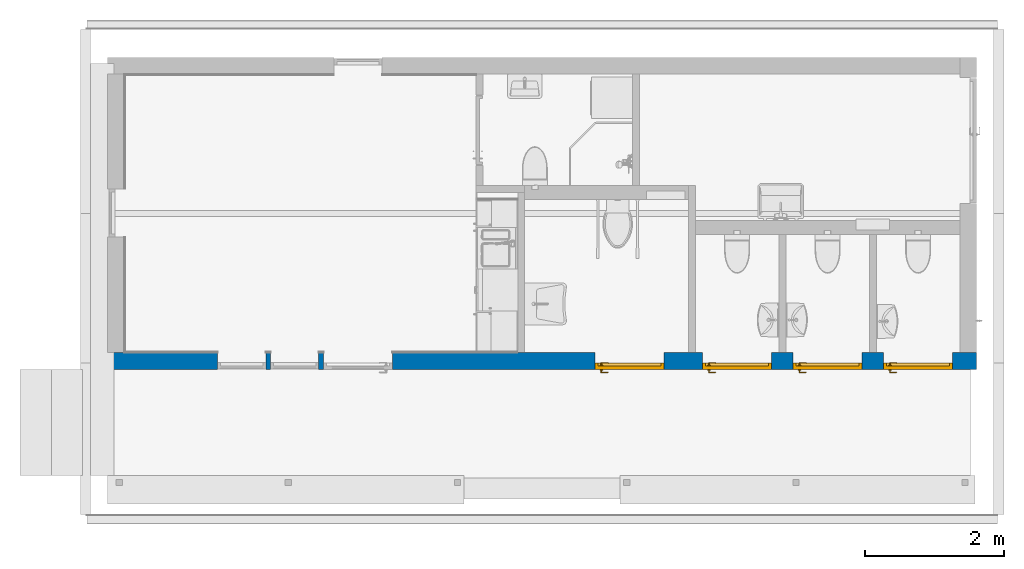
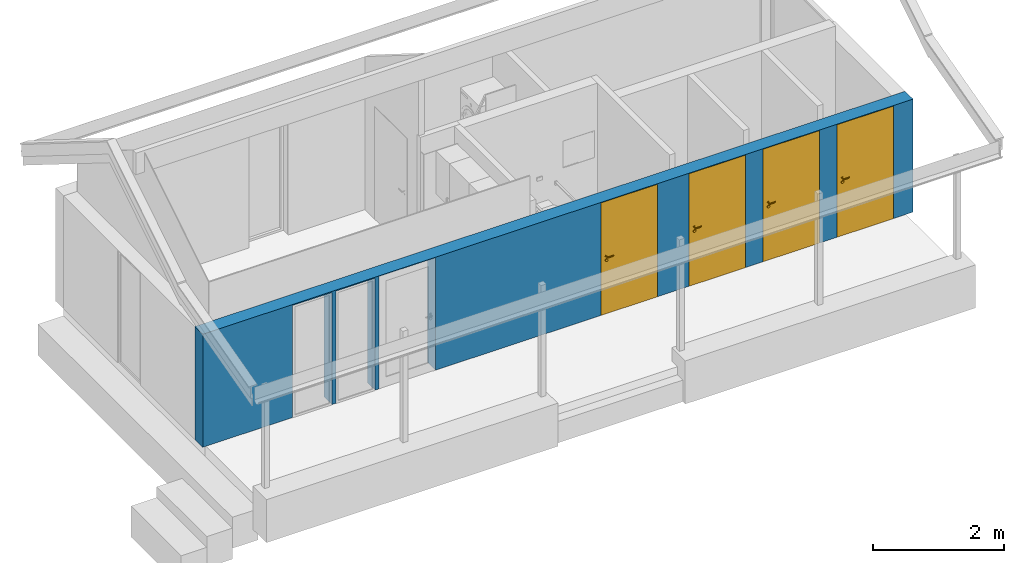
# One storey, part 2 of 15: 4 doors, 1 wall, 7 openings.
"""IFC2X3 building model written with IfcOpenShell, lengths in millimetres."""

from ifc_helpers import new_model, entity, si_unit, converted_unit, direction, frame, frame_2d, origin, place, context, subcontext, project, spatial, rectangle, extrude, faceted_brep, source, transform, mapped, material, material_list, layer, layer_set, layer_usage, type_object, type_shapes, element, fill, save


model = new_model("IFC2X3")

# Units and contexts
model_context = context("Model", 3, precision=0.01, world=origin(), true_north=direction((0.0, 1.0)))
body_context = subcontext(model_context, "Body", "Model", "MODEL_VIEW")
ifc_project = project(units=[si_unit("LENGTHUNIT", "METRE", prefix="MILLI"), si_unit("AREAUNIT", "SQUARE_METRE"), si_unit("VOLUMEUNIT", "CUBIC_METRE"), converted_unit("PLANEANGLEUNIT", "DEGREE", entity("IfcPlaneAngleMeasure", 0.017453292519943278), si_unit("PLANEANGLEUNIT", "RADIAN"), dimensions=[0, 0, 0, 0, 0, 0, 0])], contexts=[model_context])

# Site, building, storey
site_placement = place(None, origin())
site = spatial("IfcSite", under=ifc_project, at=site_placement, Name="Default", CompositionType="ELEMENT")
building_placement = place(site_placement, origin())
building = spatial("IfcBuilding", under=site, at=building_placement, CompositionType="ELEMENT")
storey_placement = place(building_placement, origin())
storey = spatial("IfcBuildingStorey", under=building, at=storey_placement, Name="Et. 1", CompositionType="ELEMENT", Elevation=0.0)

# Wall, openings, doors
ifc_material_1 = material(Name="Vegg - Dobbelfals Stående Kledning - Mørkegrå")
ifc_layer_1 = layer(ifc_material_1, 19.0)
ifc_material_2 = material(Name="Default Floor")
ifc_layer_2 = layer(ifc_material_2, 36.0)
ifc_layer_3 = layer(ifc_material_2, 23.0)
ifc_layer_4 = layer(ifc_material_2, 12.0)
ifc_material_3 = material(Name="Vegg - Stender - Isolert")
ifc_layer_5 = layer(ifc_material_3, 150.0)
ifc_layer_set = layer_set([ifc_layer_1, ifc_layer_2, ifc_layer_3, ifc_layer_4, ifc_layer_5], Name="Basic Wall:Yttervegg stående kl")
ifc_layer_usage = layer_usage(ifc_layer_set, "AXIS2", "POSITIVE", -120.00000000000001)
wall_type = type_object("IfcWallType", Name="Basic Wall:Yttervegg stående kl", PredefinedType="STANDARD", material=ifc_layer_set)
wall_placement = place(storey_placement, frame((11310.567419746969, 11733.19026124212, 0.0)))
wall = element("IfcWallStandardCase", 1, at=wall_placement, inside=storey, type_object=wall_type, material=ifc_layer_usage, Name="Basic Wall:Yttervegg stående kl", context=body_context, shape_type="SweptSolid", body=[
    extrude(rectangle(XDim=12480.000000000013, YDim=240.00000000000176, at=frame_2d((6240.000000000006, 2.8421709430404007e-13), x_axis=(-1.0, 0.0))), origin(), (0.0, 0.0, 1.0), 2100.0),
])
opening_1_placement = place(wall_placement, frame((4090.0, 120.0, 0.0)))
element("IfcOpeningElement", 2, at=opening_1_placement, cuts=wall, Name="YD Glass:10x21M:1", ObjectType="Opening", context=body_context, shape_type="SweptSolid", body=[
    extrude(rectangle(XDim=990.0000000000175, YDim=2090.0000000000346, at=frame_2d((1045.0000000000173, 495.00000000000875), x_axis=(0.0, 1.0))), frame((0.0, 0.0, 0.0), z_axis=(0.0, -1.0, 0.0), x_axis=(0.0, 0.0, 1.0)), (0.0, 0.0, 1.0), 240.00000000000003),
])
opening_2_placement = place(wall_placement, frame((7990.0, 120.0, 0.0)))
opening_2 = element("IfcOpeningElement", 3, at=opening_2_placement, cuts=wall, Name="YD Hel:10x21M:1", ObjectType="Opening", context=body_context, shape_type="SweptSolid", body=[
    extrude(rectangle(XDim=990.0000000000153, YDim=2090.0000000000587, at=frame_2d((1045.0000000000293, 495.0000000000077), x_axis=(0.0, -1.0))), frame((0.0, 0.0, 0.0), z_axis=(0.0, -1.0, 0.0), x_axis=(0.0, 0.0, 1.0)), (0.0, 0.0, 1.0), 240.00000000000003),
])
opening_3_placement = place(wall_placement, frame((12135.0, 120.0, 0.0)))
opening_3 = element("IfcOpeningElement", 4, at=opening_3_placement, cuts=wall, Name="YD Hel:10x21M:1", ObjectType="Opening", context=body_context, shape_type="SweptSolid", body=[
    extrude(rectangle(XDim=990.0000000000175, YDim=2090.0000000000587, at=frame_2d((1045.0000000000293, 495.00000000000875), x_axis=(0.0, -1.0))), frame((0.0, 0.0, 0.0), z_axis=(0.0, -1.0, 0.0), x_axis=(0.0, 0.0, 1.0)), (0.0, 0.0, 1.0), 240.00000000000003),
])
opening_4_placement = place(wall_placement, frame((10835.0, 120.0, 0.0)))
opening_4 = element("IfcOpeningElement", 5, at=opening_4_placement, cuts=wall, Name="YD Hel:10x21M:1", ObjectType="Opening", context=body_context, shape_type="SweptSolid", body=[
    extrude(rectangle(XDim=990.0000000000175, YDim=2090.0000000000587, at=frame_2d((1045.0000000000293, 495.00000000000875), x_axis=(0.0, -1.0))), frame((0.0, 0.0, 0.0), z_axis=(0.0, -1.0, 0.0), x_axis=(0.0, 0.0, 1.0)), (0.0, 0.0, 1.0), 240.00000000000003),
])
opening_5_placement = place(wall_placement, frame((9535.0, 120.0, 0.0)))
opening_5 = element("IfcOpeningElement", 6, at=opening_5_placement, cuts=wall, Name="YD Hel:10x21M:1", ObjectType="Opening", context=body_context, shape_type="SweptSolid", body=[
    extrude(rectangle(XDim=990.0000000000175, YDim=2090.0000000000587, at=frame_2d((1045.0000000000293, 495.00000000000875), x_axis=(0.0, -1.0))), frame((0.0, 0.0, 0.0), z_axis=(0.0, -1.0, 0.0), x_axis=(0.0, 0.0, 1.0)), (0.0, 0.0, 1.0), 240.00000000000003),
])
opening_6_placement = place(wall_placement, frame((3030.0, 120.0, -10.0)))
element("IfcOpeningElement", 7, at=opening_6_placement, cuts=wall, Name="Hel Rute fast:7x21M:1", ObjectType="Opening", context=body_context, shape_type="SweptSolid", body=[
    extrude(rectangle(XDim=690.0000000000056, YDim=2090.000000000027, at=frame_2d((1045.0000000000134, 345.0000000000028), x_axis=(0.0, -1.0))), frame((0.0, 0.0, 0.0), z_axis=(0.0, -1.0, 0.0), x_axis=(0.0, 0.0, 1.0)), (0.0, 0.0, 1.0), 240.00000000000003),
])
opening_7_placement = place(wall_placement, frame((2270.0, 120.0, -10.0)))
element("IfcOpeningElement", 8, at=opening_7_placement, cuts=wall, Name="Hel Rute fast:7x21M:1", ObjectType="Opening", context=body_context, shape_type="SweptSolid", body=[
    extrude(rectangle(XDim=690.0000000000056, YDim=2090.000000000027, at=frame_2d((1045.0000000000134, 345.0000000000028), x_axis=(0.0, -1.0))), frame((0.0, 0.0, 0.0), z_axis=(0.0, -1.0, 0.0), x_axis=(0.0, 0.0, 1.0)), (0.0, 0.0, 1.0), 240.00000000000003),
])
ifc_material_4 = material(Name="Focus - Dør - Håndtak")
ifc_material_5 = material(Name="Maling mørkegrå")
ifc_material_6 = material(Name="Dør - Terskel - Eik")
ifc_material_list = material_list([ifc_material_4, ifc_material_5, ifc_material_6])
door_style = type_object("IfcDoorStyle", Name="YD Hel:10x21M", ConstructionType="NOTDEFINED", OperationType="SINGLE_SWING_LEFT", ParameterTakesPrecedence=False, Sizeable=False, material=ifc_material_list)
shared_shape = source(origin(), body_context, "Body", "Brep", [
    faceted_brep([(900.0, 140.0, 1061.0), (812.4876577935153, 140.0, 1061.0), (794.4308821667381, 144.8382984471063, 1061.0), (797.0190726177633, 154.49755670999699, 1061.0), (813.8041827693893, 150.0, 1061.0), (900.0, 150.0, 1061.0), (897.6706285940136, 150.0, 1061.3066675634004), (813.8041827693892, 150.0, 1079.0), (900.0, 150.0, 1079.0), (897.6706285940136, 150.0, 1078.6933324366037), (895.4999999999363, 150.0, 1077.7942286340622), (893.6360389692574, 150.0, 1076.363961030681), (892.2057713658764, 150.0, 1074.500000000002), (891.3066675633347, 150.0, 1072.3293714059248), (891.0, 150.0, 1070.0), (891.3066675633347, 150.0, 1067.6706285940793), (892.2057713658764, 150.0, 1065.500000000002), (893.6360389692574, 150.0, 1063.6360389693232), (895.4999999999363, 150.0, 1062.2057713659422), (900.0, 140.0, 1079.0), (797.0190726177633, 154.497556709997, 1079.0), (794.430882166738, 144.83829844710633, 1079.0), (812.4876577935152, 140.0, 1079.0), (909.0, 140.0, 1070.0), (908.7739335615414, 140.0, 1072.004517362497), (908.1082066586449, 140.0, 1073.9060190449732), (907.036187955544, 140.0, 1075.611778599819), (905.6117785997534, 140.0, 1077.0361879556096), (903.9060190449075, 140.0, 1078.1082066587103), (902.0038376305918, 140.0, 1078.7740888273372), (902.0038376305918, 140.0, 1061.2259111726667), (903.9060190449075, 140.0, 1061.8917933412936), (905.6117785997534, 140.0, 1062.9638120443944), (907.0361879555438, 140.0, 1064.3882214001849), (908.1082066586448, 140.0, 1066.093980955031), (908.7739335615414, 140.0, 1067.995482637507), (908.6933324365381, 184.0, 1072.3293714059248), (909.0, 184.0, 1070.0), (907.7942286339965, 184.0, 1074.500000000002), (906.3639610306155, 184.0, 1076.363961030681), (904.4999999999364, 184.0, 1077.794228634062), (902.3293714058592, 184.0, 1078.6933324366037), (897.6706285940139, 184.0, 1078.6933324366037), (900.0, 184.0, 1079.0), (895.4999999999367, 184.0, 1077.7942286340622), (893.6360389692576, 184.0, 1076.3639610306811), (892.2057713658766, 184.0, 1074.5000000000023), (891.3066675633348, 184.0, 1072.3293714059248), (891.0, 184.0, 1070.0), (891.3066675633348, 184.0, 1067.6706285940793), (892.2057713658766, 184.0, 1065.500000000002), (893.6360389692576, 184.0, 1063.6360389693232), (895.4999999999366, 184.0, 1062.205771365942), (897.6706285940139, 184.0, 1061.3066675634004), (900.0, 184.0, 1061.0), (902.3293714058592, 184.0, 1061.3066675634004), (904.4999999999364, 184.0, 1062.2057713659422), (906.3639610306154, 184.0, 1063.6360389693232), (908.6933324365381, 184.0, 1067.6706285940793), (907.7942286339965, 184.0, 1065.500000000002), (889.0, 184.0, 1089.0525588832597), (884.4436508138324, 184.0, 1085.5563491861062), (894.3059810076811, 184.0, 1091.2503681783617), (900.0, 184.0, 1092.0), (905.694018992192, 184.0, 1091.2503681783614), (911.0, 184.0, 1089.0525588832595), (915.5563491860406, 184.0, 1085.556349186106), (919.0525588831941, 184.0, 1081.0), (921.250368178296, 184.0, 1075.6940189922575), (922.0, 184.0, 1070.0), (921.250368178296, 184.0, 1064.3059810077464), (919.052558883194, 184.0, 1059.0), (915.5563491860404, 184.0, 1054.4436508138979), (911.0, 184.0, 1050.9474411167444), (905.6940189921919, 184.0, 1048.7496318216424), (900.0, 184.0, 1048.0), (894.305981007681, 184.0, 1048.7496318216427), (889.0, 184.0, 1050.9474411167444), (884.4436508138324, 184.0, 1054.443650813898), (880.9474411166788, 184.0, 1059.0), (878.7496318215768, 184.0, 1064.3059810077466), (878.0, 184.0, 1070.0), (878.749631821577, 184.0, 1075.6940189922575), (880.9474411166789, 184.0, 1081.0), (894.305981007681, 190.0, 1048.7496318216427), (889.0, 190.0, 1050.9474411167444), (884.4436508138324, 190.0, 1054.443650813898), (880.9474411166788, 190.0, 1059.0), (878.7496318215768, 190.0, 1064.3059810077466), (878.0, 190.0, 1070.0), (878.749631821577, 190.0, 1075.6940189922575), (880.9474411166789, 190.0, 1081.0), (884.4436508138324, 190.0, 1085.5563491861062), (889.0, 190.0, 1089.0525588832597), (894.3059810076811, 190.0, 1091.2503681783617), (900.0, 190.0, 1092.0), (905.694018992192, 190.0, 1091.2503681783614), (911.0, 190.0, 1089.0525588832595), (915.5563491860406, 190.0, 1085.556349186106), (919.0525588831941, 190.0, 1081.0), (921.250368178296, 190.0, 1075.6940189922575), (922.0, 190.0, 1070.0), (921.250368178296, 190.0, 1064.3059810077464), (919.052558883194, 190.0, 1059.0), (915.5563491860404, 190.0, 1054.4436508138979), (911.0, 190.0, 1050.9474411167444), (905.6940189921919, 190.0, 1048.7496318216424), (900.0, 190.0, 1048.0)], [[[0, 1, 2, 3, 4, 5]], [[6, 5, 4, 7, 8, 9, 10, 11, 12, 13, 14, 15, 16, 17, 18]], [[19, 8, 7, 20, 21, 22]], [[23, 24, 25, 26, 27, 28, 29, 19, 22, 1, 0, 30, 31, 32, 33, 34, 35]], [[3, 2, 21, 20]], [[7, 4, 3, 20]], [[1, 22, 21, 2]], [[36, 24, 37]], [[36, 8, 25]], [[38, 39, 8]], [[40, 8, 39]], [[40, 41, 8]], [[38, 8, 36]], [[8, 19, 29]], [[36, 25, 24]], [[24, 23, 37]], [[8, 28, 27]], [[27, 26, 8]], [[8, 26, 25]], [[8, 29, 28]], [[42, 9, 8, 43]], [[44, 10, 9, 42]], [[12, 11, 45, 46]], [[46, 47, 13, 12]], [[44, 45, 11, 10]], [[48, 14, 13, 47]], [[43, 8, 41]], [[49, 15, 14, 48]], [[50, 16, 15, 49]], [[18, 17, 51, 52]], [[52, 53, 6, 18]], [[5, 6, 53, 54]], [[50, 51, 17, 16]], [[5, 30, 0]], [[55, 56, 5]], [[56, 57, 5]], [[58, 5, 59]], [[58, 34, 5]], [[5, 57, 59]], [[37, 35, 58]], [[31, 30, 5]], [[32, 31, 5]], [[34, 33, 5]], [[33, 32, 5]], [[58, 35, 34]], [[37, 23, 35]], [[55, 5, 54]], [[44, 42, 60]], [[61, 44, 60]], [[44, 61, 45]], [[42, 62, 60]], [[62, 42, 43]], [[62, 43, 63]], [[41, 63, 43]], [[63, 41, 64]], [[41, 40, 64]], [[65, 64, 40]], [[39, 65, 40]], [[65, 39, 66]], [[38, 66, 39]], [[67, 66, 38]], [[36, 67, 38]], [[68, 67, 36]], [[68, 36, 37]], [[68, 37, 69]], [[69, 37, 58]], [[69, 58, 70]], [[70, 58, 59]], [[70, 59, 71]], [[72, 71, 59]], [[72, 59, 57]], [[57, 73, 72]], [[57, 56, 73]], [[74, 73, 56]], [[55, 74, 56]], [[55, 75, 74]], [[75, 55, 54]], [[54, 76, 75]], [[53, 76, 54]], [[76, 53, 77]], [[52, 77, 53]], [[78, 77, 52]], [[78, 52, 51]], [[78, 51, 79]], [[79, 51, 50]], [[79, 50, 80]], [[49, 80, 50]], [[81, 80, 49]], [[49, 48, 81]], [[48, 82, 81]], [[82, 48, 47]], [[82, 47, 83]], [[47, 46, 83]], [[45, 83, 46]], [[61, 83, 45]], [[84, 85, 86, 87, 88, 89, 90, 91, 92, 93, 94, 95, 96, 97, 98, 99, 100, 101, 102, 103, 104, 105, 106, 107]], [[100, 68, 69, 101]], [[99, 67, 68, 100]], [[65, 66, 98, 97]], [[99, 98, 66, 67]], [[64, 65, 97, 96]], [[63, 64, 96, 95]], [[94, 62, 63, 95]], [[93, 60, 62, 94]], [[83, 61, 92, 91]], [[93, 92, 61, 60]], [[82, 83, 91, 90]], [[81, 82, 90, 89]], [[88, 80, 81, 89]], [[87, 79, 80, 88]], [[77, 78, 86, 85]], [[87, 86, 78, 79]], [[76, 77, 85, 84]], [[75, 76, 84, 107]], [[106, 74, 75, 107]], [[105, 73, 74, 106]], [[71, 72, 104, 103]], [[105, 104, 72, 73]], [[70, 71, 103, 102]], [[69, 70, 102, 101]]]),
    faceted_brep([(889.0, 175.0, 1019.0525588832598), (884.4436508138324, 175.0, 1015.5563491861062), (880.9474411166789, 175.0, 1011.0), (878.749631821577, 175.0, 1005.6940189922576), (878.0, 175.0, 1000.0), (878.7496318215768, 175.0, 994.3059810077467), (880.9474411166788, 175.0, 989.0), (884.4436508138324, 175.0, 984.4436508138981), (889.0, 175.0, 980.9474411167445), (894.305981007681, 175.0, 978.7496318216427), (900.0, 175.0, 978.0), (905.6940189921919, 175.0, 978.7496318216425), (911.0, 175.0, 980.9474411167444), (915.5563491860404, 175.0, 984.443650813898), (919.052558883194, 175.0, 989.0), (921.250368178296, 175.0, 994.3059810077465), (922.0, 175.0, 1000.0), (921.250368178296, 175.0, 1005.6940189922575), (919.0525588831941, 175.0, 1011.0), (915.5563491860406, 175.0, 1015.5563491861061), (911.0, 175.0, 1019.0525588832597), (905.694018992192, 175.0, 1021.2503681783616), (900.0, 175.0, 1022.0), (894.3059810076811, 175.0, 1021.2503681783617), (905.6940189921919, 190.0, 978.7496318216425), (900.0, 190.0, 978.0), (894.305981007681, 190.0, 978.7496318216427), (889.0, 190.0, 980.9474411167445), (884.4436508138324, 190.0, 984.4436508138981), (880.9474411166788, 190.0, 989.0), (878.7496318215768, 190.0, 994.3059810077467), (878.0, 190.0, 1000.0), (878.749631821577, 190.0, 1005.6940189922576), (880.9474411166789, 190.0, 1011.0), (884.4436508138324, 190.0, 1015.5563491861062), (889.0, 190.0, 1019.0525588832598), (894.3059810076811, 190.0, 1021.2503681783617), (900.0, 190.0, 1022.0), (905.694018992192, 190.0, 1021.2503681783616), (911.0, 190.0, 1019.0525588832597), (915.5563491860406, 190.0, 1015.5563491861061), (919.0525588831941, 190.0, 1011.0), (921.250368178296, 190.0, 1005.6940189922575), (922.0, 190.0, 1000.0), (921.250368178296, 190.0, 994.3059810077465), (919.052558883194, 190.0, 989.0), (915.5563491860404, 190.0, 984.443650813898), (911.0, 190.0, 980.9474411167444)], [[[0, 1, 2, 3, 4, 5, 6, 7, 8, 9, 10, 11, 12, 13, 14, 15, 16, 17, 18, 19, 20, 21, 22, 23]], [[24, 25, 26, 27, 28, 29, 30, 31, 32, 33, 34, 35, 36, 37, 38, 39, 40, 41, 42, 43, 44, 45, 46, 47]], [[42, 17, 16, 43]], [[41, 18, 17, 42]], [[20, 19, 40, 39]], [[41, 40, 19, 18]], [[21, 20, 39, 38]], [[22, 21, 38, 37]], [[36, 23, 22, 37]], [[35, 0, 23, 36]], [[2, 1, 34, 33]], [[35, 34, 1, 0]], [[3, 2, 33, 32]], [[4, 3, 32, 31]], [[30, 5, 4, 31]], [[29, 6, 5, 30]], [[8, 7, 28, 27]], [[29, 28, 7, 6]], [[9, 8, 27, 26]], [[10, 9, 26, 25]], [[24, 11, 10, 25]], [[47, 12, 11, 24]], [[14, 13, 46, 45]], [[46, 13, 12, 47]], [[15, 44, 43, 16]], [[15, 14, 45, 44]]]),
    faceted_brep([(889.0, 246.0, 1089.0525588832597), (897.6706285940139, 246.0, 1078.6933324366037), (895.4999999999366, 246.0, 1077.7942286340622), (884.4436508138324, 246.0, 1085.5563491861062), (894.3059810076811, 246.0, 1091.2503681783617), (900.0, 246.0, 1079.0), (900.0, 246.0, 1092.0), (902.3293714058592, 246.0, 1078.6933324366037), (905.694018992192, 246.0, 1091.2503681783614), (904.4999999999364, 246.0, 1077.794228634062), (911.0, 246.0, 1089.0525588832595), (906.3639610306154, 246.0, 1076.363961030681), (915.5563491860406, 246.0, 1085.556349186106), (907.7942286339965, 246.0, 1074.500000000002), (919.0525588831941, 246.0, 1081.0), (908.6933324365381, 246.0, 1072.3293714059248), (921.250368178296, 246.0, 1075.6940189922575), (909.0, 246.0, 1070.0), (922.0, 246.0, 1070.0), (908.6933324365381, 246.0, 1067.6706285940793), (921.250368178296, 246.0, 1064.3059810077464), (907.7942286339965, 246.0, 1065.500000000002), (919.052558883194, 246.0, 1059.0), (915.5563491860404, 246.0, 1054.4436508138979), (906.3639610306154, 246.0, 1063.6360389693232), (911.0, 246.0, 1050.9474411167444), (904.4999999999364, 246.0, 1062.2057713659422), (905.6940189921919, 246.0, 1048.7496318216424), (902.3293714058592, 246.0, 1061.3066675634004), (900.0, 246.0, 1048.0), (900.0, 246.0, 1061.0), (894.305981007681, 246.0, 1048.7496318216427), (897.6706285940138, 246.0, 1061.3066675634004), (889.0, 246.0, 1050.9474411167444), (895.4999999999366, 246.0, 1062.205771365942), (884.4436508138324, 246.0, 1054.443650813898), (893.6360389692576, 246.0, 1063.6360389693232), (880.9474411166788, 246.0, 1059.0), (892.2057713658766, 246.0, 1065.500000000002), (878.7496318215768, 246.0, 1064.3059810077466), (891.3066675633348, 246.0, 1067.6706285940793), (878.0, 246.0, 1070.0), (891.0, 246.0, 1070.0), (878.749631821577, 246.0, 1075.6940189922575), (891.3066675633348, 246.0, 1072.3293714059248), (880.9474411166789, 246.0, 1081.0), (893.6360389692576, 246.0, 1076.363961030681), (892.2057713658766, 246.0, 1074.500000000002), (900.0, 240.0, 1048.0), (905.6940189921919, 240.0, 1048.7496318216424), (911.0, 240.0, 1050.9474411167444), (915.5563491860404, 240.0, 1054.4436508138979), (919.052558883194, 240.0, 1059.0), (921.250368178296, 240.0, 1064.3059810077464), (922.0, 240.0, 1070.0), (921.250368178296, 240.0, 1075.6940189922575), (919.0525588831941, 240.0, 1081.0), (915.5563491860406, 240.0, 1085.556349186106), (911.0, 240.0, 1089.0525588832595), (905.694018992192, 240.0, 1091.2503681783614), (900.0, 240.0, 1092.0), (894.3059810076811, 240.0, 1091.2503681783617), (889.0, 240.0, 1089.0525588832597), (884.4436508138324, 240.0, 1085.5563491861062), (880.9474411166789, 240.0, 1081.0), (878.749631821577, 240.0, 1075.6940189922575), (878.0, 240.0, 1070.0), (878.7496318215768, 240.0, 1064.3059810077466), (880.9474411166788, 240.0, 1059.0), (884.4436508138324, 240.0, 1054.443650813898), (889.0, 240.0, 1050.9474411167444), (894.305981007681, 240.0, 1048.7496318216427), (908.7739335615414, 290.0, 1072.004517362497), (908.1082066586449, 290.0, 1073.9060190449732), (900.0, 280.0, 1079.0), (902.0038376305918, 290.0, 1078.7740888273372), (900.0, 290.0, 1079.0), (909.0, 290.0, 1070.0), (905.6117785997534, 290.0, 1077.0361879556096), (903.9060190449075, 290.0, 1078.1082066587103), (907.036187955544, 290.0, 1075.611778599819), (897.6706285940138, 280.0, 1078.6933324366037), (895.4999999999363, 280.0, 1077.794228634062), (893.6360389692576, 280.0, 1076.363961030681), (892.2057713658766, 280.0, 1074.500000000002), (891.3066675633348, 280.0, 1072.3293714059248), (891.0, 280.0, 1070.0), (891.3066675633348, 280.0, 1067.6706285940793), (892.2057713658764, 280.0, 1065.500000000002), (893.6360389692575, 280.0, 1063.6360389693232), (895.4999999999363, 280.0, 1062.2057713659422), (897.6706285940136, 280.0, 1061.3066675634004), (900.0, 280.0, 1061.0), (900.0, 290.0, 1061.0), (902.0038376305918, 290.0, 1061.2259111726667), (908.1082066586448, 290.0, 1066.093980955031), (908.7739335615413, 290.0, 1067.995482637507), (903.9060190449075, 290.0, 1061.8917933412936), (905.6117785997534, 290.0, 1062.9638120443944), (907.0361879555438, 290.0, 1064.3882214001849), (813.8041827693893, 280.0, 1061.0), (797.0190726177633, 275.5024432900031, 1061.0), (794.4308821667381, 285.1617015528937, 1061.0), (812.4876577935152, 290.0, 1061.0), (813.8041827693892, 280.0, 1079.0), (812.4876577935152, 290.0, 1079.0), (794.430882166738, 285.1617015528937, 1079.0), (797.0190726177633, 275.50244329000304, 1079.0)], [[[0, 1, 2]], [[0, 2, 3]], [[0, 4, 1]], [[5, 1, 4]], [[6, 5, 4]], [[5, 6, 7]], [[8, 7, 6]], [[8, 9, 7]], [[9, 8, 10]], [[9, 10, 11]], [[12, 11, 10]], [[11, 12, 13]], [[13, 12, 14]], [[13, 14, 15]], [[15, 14, 16]], [[17, 15, 16]], [[18, 17, 16]], [[19, 17, 18]], [[20, 19, 18]], [[21, 19, 20]], [[22, 21, 20]], [[21, 22, 23]], [[24, 21, 23]], [[23, 25, 24]], [[25, 26, 24]], [[26, 25, 27]], [[26, 27, 28]], [[27, 29, 28]], [[30, 28, 29]], [[29, 31, 30]], [[30, 31, 32]], [[33, 32, 31]], [[32, 33, 34]], [[34, 33, 35]], [[36, 34, 35]], [[37, 36, 35]], [[38, 36, 37]], [[39, 38, 37]], [[38, 39, 40]], [[40, 39, 41]], [[41, 42, 40]], [[41, 43, 42]], [[44, 42, 43]], [[45, 44, 43]], [[46, 45, 3]], [[45, 47, 44]], [[47, 45, 46]], [[46, 3, 2]], [[48, 49, 50, 51, 52, 53, 54, 55, 56, 57, 58, 59, 60, 61, 62, 63, 64, 65, 66, 67, 68, 69, 70, 71]], [[54, 18, 16, 55]], [[55, 16, 14, 56]], [[58, 57, 12, 10]], [[12, 57, 56, 14]], [[59, 58, 10, 8]], [[59, 8, 6, 60]], [[60, 6, 4, 61]], [[61, 4, 0, 62]], [[64, 63, 3, 45]], [[3, 63, 62, 0]], [[65, 64, 45, 43]], [[65, 43, 41, 66]], [[66, 41, 39, 67]], [[67, 39, 37, 68]], [[70, 69, 35, 33]], [[35, 69, 68, 37]], [[71, 70, 33, 31]], [[71, 31, 29, 48]], [[48, 29, 27, 49]], [[49, 27, 25, 50]], [[52, 51, 23, 22]], [[23, 51, 50, 25]], [[53, 52, 22, 20]], [[53, 20, 18, 54]], [[17, 72, 15]], [[73, 74, 15]], [[74, 11, 13]], [[11, 74, 9]], [[74, 7, 9]], [[15, 74, 13]], [[75, 76, 74]], [[72, 73, 15]], [[17, 77, 72]], [[78, 79, 74]], [[74, 80, 78]], [[73, 80, 74]], [[79, 75, 74]], [[5, 74, 81, 1]], [[1, 81, 82, 2]], [[47, 46, 83, 84]], [[85, 44, 47, 84]], [[83, 46, 2, 82]], [[44, 85, 86, 42]], [[7, 74, 5]], [[42, 86, 87, 40]], [[40, 87, 88, 38]], [[34, 36, 89, 90]], [[91, 32, 34, 90]], [[30, 32, 91, 92]], [[89, 36, 38, 88]], [[93, 94, 92]], [[92, 26, 28]], [[92, 24, 26]], [[21, 92, 19]], [[92, 95, 19]], [[21, 24, 92]], [[19, 96, 17]], [[92, 94, 97]], [[92, 97, 98]], [[92, 99, 95]], [[92, 98, 99]], [[95, 96, 19]], [[96, 77, 17]], [[30, 92, 28]], [[92, 100, 101, 102, 103, 93]], [[100, 92, 91, 90, 89, 88, 87, 86, 85, 84, 83, 82, 81, 74, 104]], [[104, 74, 76, 105, 106, 107]], [[106, 102, 101, 107]], [[101, 100, 104, 107]], [[106, 105, 103, 102]], [[73, 72, 77, 96, 95, 99, 98, 97, 94, 93, 103, 105, 76, 75, 79, 78, 80]]]),
    faceted_brep([(894.3059810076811, 255.0, 1021.2503681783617), (900.0, 255.0, 1022.0), (905.694018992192, 255.0, 1021.2503681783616), (911.0, 255.0, 1019.0525588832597), (915.5563491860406, 255.0, 1015.5563491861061), (919.0525588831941, 255.0, 1011.0), (921.250368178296, 255.0, 1005.6940189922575), (922.0, 255.0, 1000.0), (921.250368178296, 255.0, 994.3059810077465), (919.052558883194, 255.0, 989.0), (915.5563491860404, 255.0, 984.443650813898), (911.0, 255.0, 980.9474411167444), (905.6940189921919, 255.0, 978.7496318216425), (900.0, 255.0, 978.0), (894.305981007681, 255.0, 978.7496318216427), (889.0, 255.0, 980.9474411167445), (884.4436508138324, 255.0, 984.4436508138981), (880.9474411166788, 255.0, 989.0), (878.7496318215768, 255.0, 994.3059810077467), (878.0, 255.0, 1000.0), (878.749631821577, 255.0, 1005.6940189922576), (880.9474411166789, 255.0, 1011.0), (884.4436508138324, 255.0, 1015.5563491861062), (889.0, 255.0, 1019.0525588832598), (894.305981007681, 240.0, 978.7496318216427), (900.0, 240.0, 978.0), (905.6940189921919, 240.0, 978.7496318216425), (911.0, 240.0, 980.9474411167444), (915.5563491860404, 240.0, 984.443650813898), (919.052558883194, 240.0, 989.0), (921.250368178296, 240.0, 994.3059810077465), (922.0, 240.0, 1000.0), (921.250368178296, 240.0, 1005.6940189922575), (919.0525588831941, 240.0, 1011.0), (915.5563491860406, 240.0, 1015.5563491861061), (911.0, 240.0, 1019.0525588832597), (905.694018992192, 240.0, 1021.2503681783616), (900.0, 240.0, 1022.0), (894.3059810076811, 240.0, 1021.2503681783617), (889.0, 240.0, 1019.0525588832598), (884.4436508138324, 240.0, 1015.5563491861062), (880.9474411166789, 240.0, 1011.0), (878.749631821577, 240.0, 1005.6940189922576), (878.0, 240.0, 1000.0), (878.7496318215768, 240.0, 994.3059810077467), (880.9474411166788, 240.0, 989.0), (884.4436508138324, 240.0, 984.4436508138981), (889.0, 240.0, 980.9474411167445)], [[[0, 1, 2, 3, 4, 5, 6, 7, 8, 9, 10, 11, 12, 13, 14, 15, 16, 17, 18, 19, 20, 21, 22, 23]], [[24, 25, 26, 27, 28, 29, 30, 31, 32, 33, 34, 35, 36, 37, 38, 39, 40, 41, 42, 43, 44, 45, 46, 47]], [[31, 7, 6, 32]], [[32, 6, 5, 33]], [[35, 34, 4, 3]], [[4, 34, 33, 5]], [[36, 35, 3, 2]], [[36, 2, 1, 37]], [[37, 1, 0, 38]], [[38, 0, 23, 39]], [[41, 40, 22, 21]], [[22, 40, 39, 23]], [[42, 41, 21, 20]], [[42, 20, 19, 43]], [[43, 19, 18, 44]], [[44, 18, 17, 45]], [[47, 46, 16, 15]], [[16, 46, 45, 17]], [[24, 47, 15, 14]], [[24, 14, 13, 25]], [[25, 13, 12, 26]], [[26, 12, 11, 27]], [[29, 28, 10, 9]], [[27, 11, 10, 28]], [[7, 31, 30, 8]], [[29, 9, 8, 30]]]),
    faceted_brep([(948.0, 240.0, 0.0), (990.0, 240.0, 0.0), (990.0, 148.0, 0.0), (948.0, 148.0, 0.0), (948.0, 240.0, 2048.0), (42.0, 240.0, 2048.0), (42.0, 240.0, 0.0), (0.0, 240.0, 0.0), (0.0, 240.0, 2090.0), (990.0, 240.0, 2090.0), (990.0, 148.0, 2090.0), (0.0, 148.0, 2090.0), (0.0, 148.0, 0.0), (42.0, 148.0, 0.0), (42.0, 148.0, 2048.0), (948.0, 148.0, 2048.0)], [[[0, 1, 2, 3]], [[1, 0, 4, 5, 6, 7, 8, 9]], [[2, 1, 9, 10]], [[3, 2, 10, 11, 12, 13, 14, 15]], [[0, 3, 15, 4]], [[10, 9, 8, 11]], [[4, 15, 14, 5]], [[6, 13, 12, 7]], [[11, 8, 7, 12]], [[5, 14, 13, 6]]]),
    faceted_brep([(42.0, 190.0, 5.0), (948.0, 190.0, 5.0), (948.0, 190.0, 2048.0), (42.0, 190.0, 2048.0), (42.0, 240.0, 5.0), (42.0, 240.0, 2048.0), (948.0, 240.0, 2048.0), (948.0, 240.0, 5.0)], [[[0, 1, 2, 3]], [[4, 5, 6, 7]], [[1, 0, 4, 7]], [[2, 1, 7, 6]], [[3, 2, 6, 5]], [[0, 3, 5, 4]]]),
    faceted_brep([(948.0, 240.0, 5.0), (948.0, 190.0, 5.0), (948.0, 190.0, 15.0), (948.0, 148.0, 15.0), (948.0, 148.0, 0.0), (948.0, 240.0, 0.0), (42.0, 240.0, 5.0), (42.0, 240.0, 0.0), (42.0, 148.0, 0.0), (42.0, 148.0, 15.0), (42.0, 190.0, 15.0), (42.0, 190.0, 5.0)], [[[0, 1, 2, 3, 4, 5]], [[6, 7, 8, 9, 10, 11]], [[1, 0, 6, 11]], [[2, 1, 11, 10]], [[3, 2, 10, 9]], [[4, 3, 9, 8]], [[5, 4, 8, 7]], [[0, 5, 7, 6]]]),
])
type_shapes(door_style, [shared_shape])
door_1_placement = place(opening_2_placement, frame((0.0, 0.0, 0.0), z_axis=(0.0, 0.0, 1.0), x_axis=(-1.0, 0.0, 0.0)))
door_1 = element("IfcDoor", 9, at=door_1_placement, inside=storey, type_object=door_style, material=ifc_material_list, Name="YD Hel:10x21M", OverallHeight=2090.0000000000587, OverallWidth=990.0000000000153, context=body_context, shape_type="MappedRepresentation", body=[
    mapped(shared_shape, transform((0.0, 0.0, 0.0), scale=1.0)),
])
fill(opening_2, door_1)
door_2_placement = place(opening_3_placement, frame((0.0, 0.0, 0.0), z_axis=(0.0, 0.0, 1.0), x_axis=(-1.0, 0.0, 0.0)))
door_2 = element("IfcDoor", 10, at=door_2_placement, inside=storey, type_object=door_style, material=ifc_material_list, Name="YD Hel:10x21M", OverallHeight=2090.0000000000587, OverallWidth=990.0000000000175, context=body_context, shape_type="MappedRepresentation", body=[
    mapped(shared_shape, transform((0.0, 0.0, 0.0), scale=1.0)),
])
fill(opening_3, door_2)
door_3_placement = place(opening_4_placement, frame((0.0, 0.0, 0.0), z_axis=(0.0, 0.0, 1.0), x_axis=(-1.0, 0.0, 0.0)))
door_3 = element("IfcDoor", 11, at=door_3_placement, inside=storey, type_object=door_style, material=ifc_material_list, Name="YD Hel:10x21M", OverallHeight=2090.0000000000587, OverallWidth=990.0000000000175, context=body_context, shape_type="MappedRepresentation", body=[
    mapped(shared_shape, transform((0.0, 0.0, 0.0), scale=1.0)),
])
fill(opening_4, door_3)
door_4_placement = place(opening_5_placement, frame((0.0, 0.0, 0.0), z_axis=(0.0, 0.0, 1.0), x_axis=(-1.0, 0.0, 0.0)))
door_4 = element("IfcDoor", 12, at=door_4_placement, inside=storey, type_object=door_style, material=ifc_material_list, Name="YD Hel:10x21M", OverallHeight=2090.0000000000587, OverallWidth=990.0000000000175, context=body_context, shape_type="MappedRepresentation", body=[
    mapped(shared_shape, transform((0.0, 0.0, 0.0), scale=1.0)),
])
fill(opening_5, door_4)

save(model, "model.ifc")
